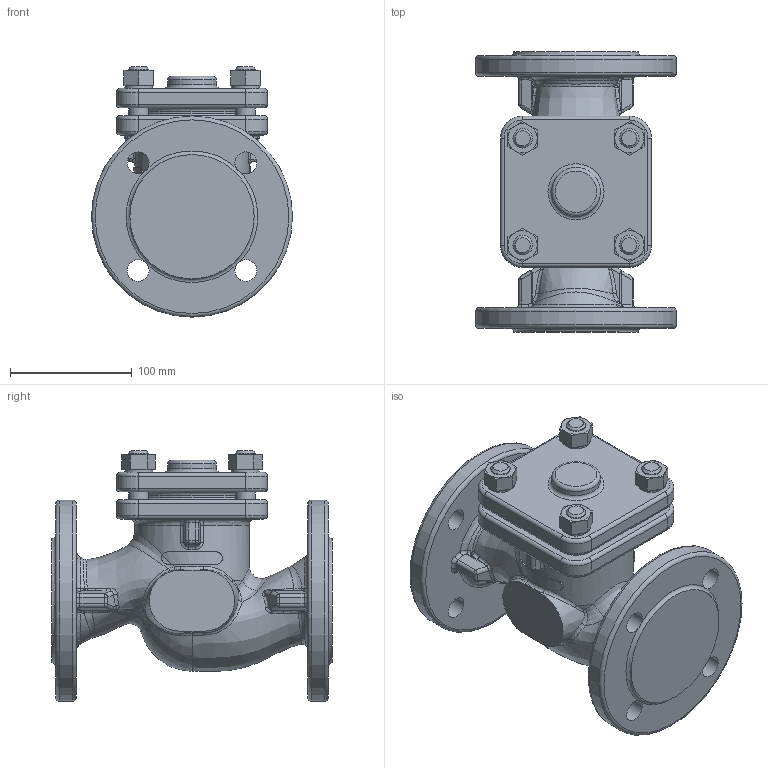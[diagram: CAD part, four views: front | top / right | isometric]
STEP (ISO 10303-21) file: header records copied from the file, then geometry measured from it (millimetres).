
FILE_DESCRIPTION(/* description */ (''),/* implementation_level */ '2;1');
FILE_NAME(/* name */ 'sest_vm_zv0002_zv2x6_dn15-200.stp',/* time_stamp */ '2012-03-05T13:40:06+01:00',/* author */ (''),/* organization */ ('LDM'),/* preprocessor_version */ 'ST-DEVELOPER v11',/* originating_system */ 'SIEMENS PLM Software NX 7.0',/* authorisation */ '');
FILE_SCHEMA (('CONFIG_CONTROL_DESIGN'));
Length unit declared in the file: millimetre
Products named in the file (1): adam9E31ed7j
Bounding box: 165 x 230 x 205.5 mm (x, y, z)
Volume: 2521350.9 mm3; surface area: 216934.5 mm2
Topology: 1 solids, 1 shells, 515 faces, 1218 edges, 715 vertices
Faces by surface type: cylinder 135, bspline 130, plane 117, cone 59, torus 56, sphere 16, extrusion 2
Full cylindrical faces by diameter (mm): 16 x12, 18 x8, 40 x1, 88 x1, 94 x1, 98 x1, 165 x2
Entity records: 28064 total; most frequent: CARTESIAN_POINT 17400, ORIENTED_EDGE 2286, DIRECTION 2050, EDGE_CURVE 1143, AXIS2_PLACEMENT_3D 894, VERTEX_POINT 686, EDGE_LOOP 603, ADVANCED_FACE 515
